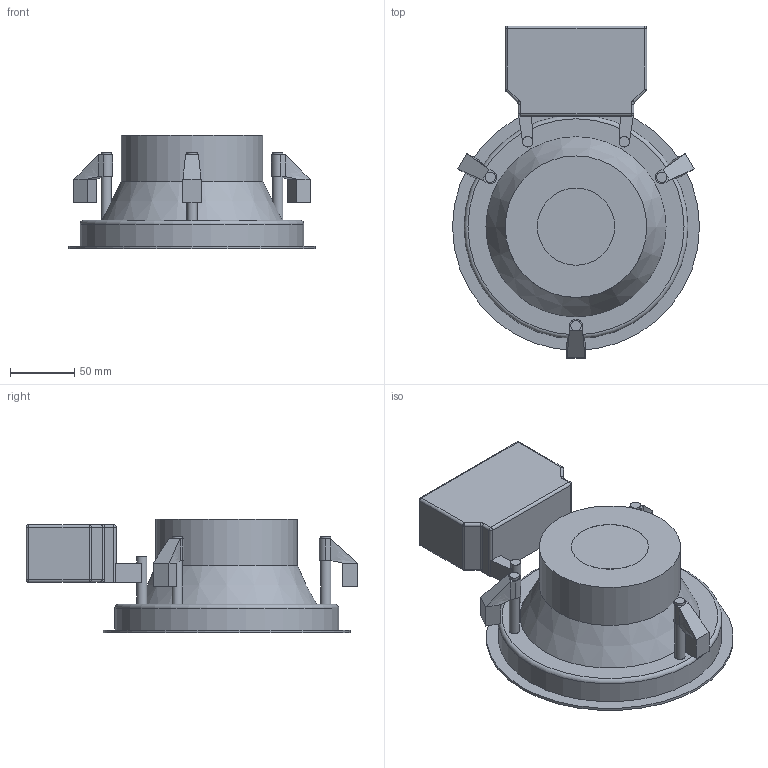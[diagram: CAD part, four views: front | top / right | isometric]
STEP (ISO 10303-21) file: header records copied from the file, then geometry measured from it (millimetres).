
FILE_DESCRIPTION(/* description */ (''),/* implementation_level */ '2;1');
FILE_NAME(/* name */ 'DE-200.stp',/* time_stamp */ '2024-09-24T15:07:33+02:00',/* author */ ('d.streicher'),/* organization */ (''),/* preprocessor_version */ 'ST-DEVELOPER v20',/* originating_system */ 'Autodesk Inventor 2025',/* authorisation */ '');
FILE_SCHEMA (('AUTOMOTIVE_DESIGN { 1 0 10303 214 3 1 1 }'));
Length unit declared in the file: millimetre
Products named in the file (1): DE-200
Bounding box: 192 x 258 x 88 mm (x, y, z)
Volume: 1608861.8 mm3; surface area: 137137.4 mm2
Topology: 1 solids, 1 shells, 121 faces, 269 edges, 169 vertices
Faces by surface type: plane 61, cylinder 38, sphere 10, bspline 8, torus 3, cone 1
Full cylindrical faces by diameter (mm): 8 x8, 60 x1, 110 x1, 169 x1, 170 x1, 174 x1, 192 x1
Entity records: 3620 total; most frequent: CARTESIAN_POINT 714, DIRECTION 587, ORIENTED_EDGE 522, EDGE_CURVE 261, AXIS2_PLACEMENT_3D 212, LINE 163, VECTOR 163, VERTEX_POINT 151
